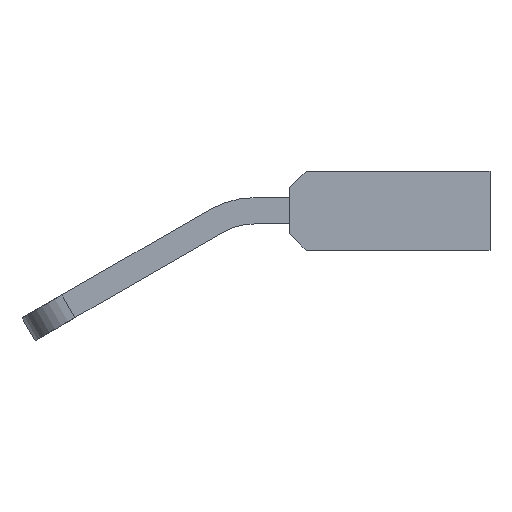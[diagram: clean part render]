
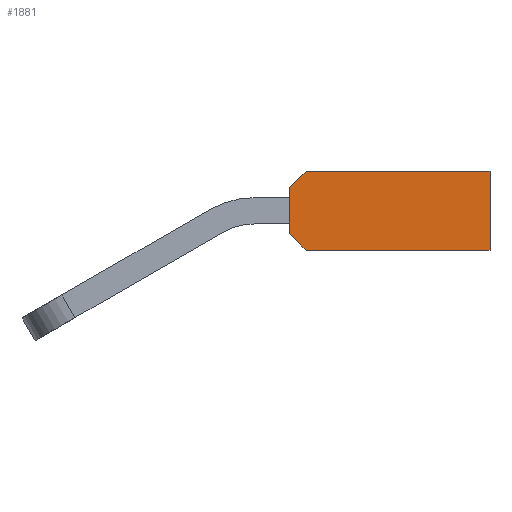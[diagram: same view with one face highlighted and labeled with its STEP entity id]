
A CAD part, front view. The second image highlights one B-rep face of the part: STEP entity #1881.
In plain terms, the highlighted planar face has unit normal (0, -1, 0).
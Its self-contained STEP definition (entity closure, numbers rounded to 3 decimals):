
#104 = VERTEX_POINT ( 'NONE', #1065 ) ;
#115 = ORIENTED_EDGE ( 'NONE', *, *, #3798, .F. ) ;
#420 = LINE ( 'NONE', #2161, #484 ) ;
#422 = VERTEX_POINT ( 'NONE', #2410 ) ;
#484 = VECTOR ( 'NONE', #2453, 1000. ) ;
#566 = FACE_OUTER_BOUND ( 'NONE', #5646, .T. ) ;
#728 = CARTESIAN_POINT ( 'NONE',  ( 2.3, -1., -1.6 ) ) ;
#895 = ORIENTED_EDGE ( 'NONE', *, *, #6329, .F. ) ;
#1065 = CARTESIAN_POINT ( 'NONE',  ( 7.9, -1., 0.8 ) ) ;
#1485 = ORIENTED_EDGE ( 'NONE', *, *, #3768, .F. ) ;
#1881 = ADVANCED_FACE ( 'NONE', ( #566 ), #3099, .F. ) ;
#1951 = EDGE_CURVE ( 'NONE', #4168, #5407, #420, .T. ) ;
#2022 = VERTEX_POINT ( 'NONE', #728 ) ;
#2161 = CARTESIAN_POINT ( 'NONE',  ( 1.8, -1., 0.3 ) ) ;
#2374 = CARTESIAN_POINT ( 'NONE',  ( 7.9, -1., 0.8 ) ) ;
#2410 = CARTESIAN_POINT ( 'NONE',  ( 7.9, -1., -1.6 ) ) ;
#2413 = DIRECTION ( 'NONE',  ( 0., 0., -1. ) ) ;
#2438 = LINE ( 'NONE', #5529, #2506 ) ;
#2453 = DIRECTION ( 'NONE',  ( 0.707, 0., 0.707 ) ) ;
#2467 = VECTOR ( 'NONE', #2413, 1000. ) ;
#2506 = VECTOR ( 'NONE', #5625, 1000. ) ;
#2512 = LINE ( 'NONE', #5701, #2528 ) ;
#2511 = CARTESIAN_POINT ( 'NONE',  ( 2.3, -1., 0.8 ) ) ;
#2528 = VECTOR ( 'NONE', #6068, 1000. ) ;
#2713 = EDGE_CURVE ( 'NONE', #4948, #4168, #5426, .T. ) ;
#2787 = LINE ( 'NONE', #6142, #6175 ) ;
#2835 = DIRECTION ( 'NONE',  ( 0., 0., 1. ) ) ;
#2845 = DIRECTION ( 'NONE',  ( 0., 1., 0. ) ) ;
#3099 = PLANE ( 'NONE',  #4310 ) ;
#3134 = ORIENTED_EDGE ( 'NONE', *, *, #2713, .F. ) ;
#3166 = CARTESIAN_POINT ( 'NONE',  ( 0., -1., 0. ) ) ;
#3523 = CARTESIAN_POINT ( 'NONE',  ( 1.8, -1., 0.3 ) ) ;
#3768 = EDGE_CURVE ( 'NONE', #2022, #4948, #2512, .T. ) ;
#3798 = EDGE_CURVE ( 'NONE', #422, #2022, #2438, .T. ) ;
#4168 = VERTEX_POINT ( 'NONE', #3523 ) ;
#4310 = AXIS2_PLACEMENT_3D ( 'NONE', #3166, #2845, #2835 ) ;
#4546 = ORIENTED_EDGE ( 'NONE', *, *, #1951, .F. ) ;
#4948 = VERTEX_POINT ( 'NONE', #5723 ) ;
#4964 = ORIENTED_EDGE ( 'NONE', *, *, #5410, .F. ) ;
#5407 = VERTEX_POINT ( 'NONE', #2511 ) ;
#5410 = EDGE_CURVE ( 'NONE', #104, #422, #5893, .T. ) ;
#5426 = LINE ( 'NONE', #5464, #5485 ) ;
#5464 = CARTESIAN_POINT ( 'NONE',  ( 1.8, -1., -1.1 ) ) ;
#5469 = DIRECTION ( 'NONE',  ( 0., 0., 1. ) ) ;
#5485 = VECTOR ( 'NONE', #5469, 1000. ) ;
#5529 = CARTESIAN_POINT ( 'NONE',  ( 7.9, -1., -1.6 ) ) ;
#5625 = DIRECTION ( 'NONE',  ( -1., 0., 0. ) ) ;
#5646 = EDGE_LOOP ( 'NONE', ( #4964, #895, #4546, #3134, #1485, #115 ) ) ;
#5701 = CARTESIAN_POINT ( 'NONE',  ( 2.3, -1., -1.6 ) ) ;
#5723 = CARTESIAN_POINT ( 'NONE',  ( 1.8, -1., -1.1 ) ) ;
#5893 = LINE ( 'NONE', #2374, #2467 ) ;
#6068 = DIRECTION ( 'NONE',  ( -0.707, 0., 0.707 ) ) ;
#6142 = CARTESIAN_POINT ( 'NONE',  ( 2.3, -1., 0.8 ) ) ;
#6147 = DIRECTION ( 'NONE',  ( 1., 0., 0. ) ) ;
#6175 = VECTOR ( 'NONE', #6147, 1000. ) ;
#6329 = EDGE_CURVE ( 'NONE', #5407, #104, #2787, .T. ) ;
